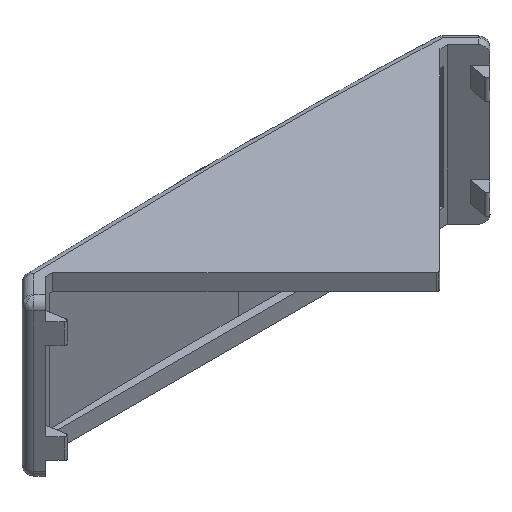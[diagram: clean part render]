
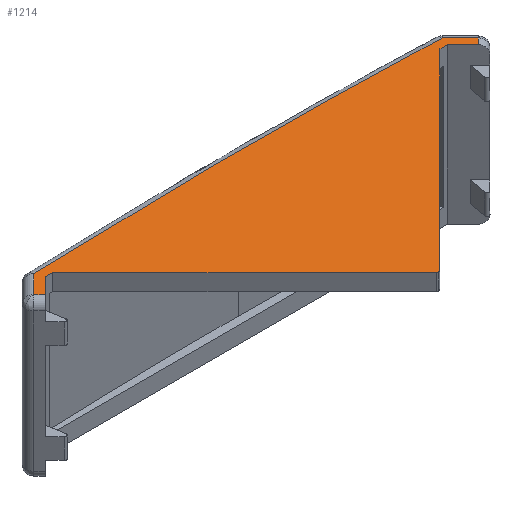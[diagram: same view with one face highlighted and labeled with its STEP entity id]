
A CAD part, isometric view. The second image highlights one B-rep face of the part: STEP entity #1214.
In plain terms, the highlighted planar face has unit normal (0, 0, 1).
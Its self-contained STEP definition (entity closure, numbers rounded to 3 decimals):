
#6 = CARTESIAN_POINT ( 'NONE',  ( -49.296, 2.033, 18.75 ) ) ;
#20 = CARTESIAN_POINT ( 'NONE',  ( 0.424, -46.326, 18.75 ) ) ;
#36 = ORIENTED_EDGE ( 'NONE', *, *, #570, .F. ) ;
#67 = VERTEX_POINT ( 'NONE', #1508 ) ;
#79 = CIRCLE ( 'NONE', #910, 0.6 ) ;
#100 = LINE ( 'NONE', #117, #2200 ) ;
#117 = CARTESIAN_POINT ( 'NONE',  ( 53.662, -2.333, 18.75 ) ) ;
#138 = VECTOR ( 'NONE', #1534, 1000. ) ;
#147 = CARTESIAN_POINT ( 'NONE',  ( -53.662, -2.333, 18.75 ) ) ;
#159 = DIRECTION ( 'NONE',  ( -1., 0., 0. ) ) ;
#177 = CARTESIAN_POINT ( 'NONE',  ( -48.5, 0., 18.75 ) ) ;
#267 = CARTESIAN_POINT ( 'NONE',  ( 48.5, 0., 18.75 ) ) ;
#269 = VECTOR ( 'NONE', #1024, 1000. ) ;
#286 = DIRECTION ( 'NONE',  ( 0., -1., 0. ) ) ;
#306 = VECTOR ( 'NONE', #159, 1000. ) ;
#347 = VECTOR ( 'NONE', #532, 1000. ) ;
#366 = ORIENTED_EDGE ( 'NONE', *, *, #658, .F. ) ;
#371 = CARTESIAN_POINT ( 'NONE',  ( -51.081, -2.581, 18.75 ) ) ;
#375 = EDGE_CURVE ( 'NONE', #446, #1675, #784, .T. ) ;
#396 = ORIENTED_EDGE ( 'NONE', *, *, #1366, .F. ) ;
#408 = DIRECTION ( 'NONE',  ( 0.707, 0.707, 0. ) ) ;
#416 = VERTEX_POINT ( 'NONE', #2049 ) ;
#420 = DIRECTION ( 'NONE',  ( 0., 0., -1. ) ) ;
#445 = EDGE_CURVE ( 'NONE', #1464, #955, #1599, .T. ) ;
#446 = VERTEX_POINT ( 'NONE', #799 ) ;
#484 = ORIENTED_EDGE ( 'NONE', *, *, #2228, .T. ) ;
#496 = LINE ( 'NONE', #1562, #1419 ) ;
#501 = CARTESIAN_POINT ( 'NONE',  ( 49.296, 2.033, 18.75 ) ) ;
#509 = CARTESIAN_POINT ( 'NONE',  ( -16.44, 3.323, 18.75 ) ) ;
#532 = DIRECTION ( 'NONE',  ( -0.707, -0.707, 0. ) ) ;
#566 = ORIENTED_EDGE ( 'NONE', *, *, #1425, .F. ) ;
#570 = EDGE_CURVE ( 'NONE', #913, #817, #1399, .T. ) ;
#572 = CARTESIAN_POINT ( 'NONE',  ( -46.75, 0., 18.75 ) ) ;
#580 = EDGE_CURVE ( 'NONE', #817, #67, #781, .T. ) ;
#602 = DIRECTION ( 'NONE',  ( -1., 0., 0. ) ) ;
#658 = EDGE_CURVE ( 'NONE', #1675, #1730, #1960, .T. ) ;
#660 = DIRECTION ( 'NONE',  ( -0.707, 0.707, 0. ) ) ;
#661 = DIRECTION ( 'NONE',  ( -0.707, -0.707, 0. ) ) ;
#699 = CARTESIAN_POINT ( 'NONE',  ( 0., 0., 18.75 ) ) ;
#781 = LINE ( 'NONE', #1015, #306 ) ;
#784 = LINE ( 'NONE', #944, #1703 ) ;
#786 = VERTEX_POINT ( 'NONE', #808 ) ;
#799 = CARTESIAN_POINT ( 'NONE',  ( -0.424, -46.326, 18.75 ) ) ;
#808 = CARTESIAN_POINT ( 'NONE',  ( 0., -46.501, 18.75 ) ) ;
#817 = VERTEX_POINT ( 'NONE', #267 ) ;
#910 = AXIS2_PLACEMENT_3D ( 'NONE', #1894, #1381, #2254 ) ;
#913 = VERTEX_POINT ( 'NONE', #2115 ) ;
#944 = CARTESIAN_POINT ( 'NONE',  ( -46.75, 0., 18.75 ) ) ;
#951 = VECTOR ( 'NONE', #660, 1000. ) ;
#955 = VERTEX_POINT ( 'NONE', #1251 ) ;
#956 = CARTESIAN_POINT ( 'NONE',  ( 0., -45.901, 18.75 ) ) ;
#968 = ORIENTED_EDGE ( 'NONE', *, *, #2134, .T. ) ;
#976 = CARTESIAN_POINT ( 'NONE',  ( -52.955, -3.041, 18.75 ) ) ;
#984 = ORIENTED_EDGE ( 'NONE', *, *, #1776, .T. ) ;
#1015 = CARTESIAN_POINT ( 'NONE',  ( 0., 0., 18.75 ) ) ;
#1024 = DIRECTION ( 'NONE',  ( -0.707, -0.707, 0. ) ) ;
#1048 = FACE_OUTER_BOUND ( 'NONE', #1379, .T. ) ;
#1097 = VECTOR ( 'NONE', #1948, 1000. ) ;
#1140 = ORIENTED_EDGE ( 'NONE', *, *, #375, .F. ) ;
#1148 = VERTEX_POINT ( 'NONE', #2002 ) ;
#1159 = LINE ( 'NONE', #20, #347 ) ;
#1164 = CIRCLE ( 'NONE', #1315, 0.6 ) ;
#1214 = ADVANCED_FACE ( 'NONE', ( #1048 ), #2033, .F. ) ;
#1251 = CARTESIAN_POINT ( 'NONE',  ( -52.248, -3.748, 18.75 ) ) ;
#1315 = AXIS2_PLACEMENT_3D ( 'NONE', #956, #2070, #286 ) ;
#1364 = DIRECTION ( 'NONE',  ( 0.707, -0.707, 0. ) ) ;
#1366 = EDGE_CURVE ( 'NONE', #1875, #1148, #100, .T. ) ;
#1379 = EDGE_LOOP ( 'NONE', ( #484, #968, #2114, #1526, #36, #2053, #396, #566, #1545, #2139, #984, #366, #1140 ) ) ;
#1381 = DIRECTION ( 'NONE',  ( 0., 0., 1. ) ) ;
#1387 = CARTESIAN_POINT ( 'NONE',  ( -51.479, -0.15, 18.75 ) ) ;
#1399 = LINE ( 'NONE', #1722, #951 ) ;
#1419 = VECTOR ( 'NONE', #661, 1000. ) ;
#1425 = EDGE_CURVE ( 'NONE', #1506, #1875, #2045, .T. ) ;
#1464 = VERTEX_POINT ( 'NONE', #147 ) ;
#1494 = LINE ( 'NONE', #371, #2168 ) ;
#1506 = VERTEX_POINT ( 'NONE', #6 ) ;
#1508 = CARTESIAN_POINT ( 'NONE',  ( 46.75, 0., 18.75 ) ) ;
#1526 = ORIENTED_EDGE ( 'NONE', *, *, #580, .F. ) ;
#1534 = DIRECTION ( 'NONE',  ( 0.707, -0.707, 0. ) ) ;
#1545 = ORIENTED_EDGE ( 'NONE', *, *, #1959, .T. ) ;
#1562 = CARTESIAN_POINT ( 'NONE',  ( 52.248, -3.748, 18.75 ) ) ;
#1571 = CARTESIAN_POINT ( 'NONE',  ( 16.44, 3.323, 18.75 ) ) ;
#1576 = EDGE_CURVE ( 'NONE', #67, #416, #1159, .T. ) ;
#1599 = LINE ( 'NONE', #976, #138 ) ;
#1672 = CARTESIAN_POINT ( 'NONE',  ( 54.306, -46.798, 18.75 ) ) ;
#1675 = VERTEX_POINT ( 'NONE', #572 ) ;
#1703 = VECTOR ( 'NONE', #1818, 1000. ) ;
#1722 = CARTESIAN_POINT ( 'NONE',  ( 53.662, -5.162, 18.75 ) ) ;
#1730 = VERTEX_POINT ( 'NONE', #177 ) ;
#1776 = EDGE_CURVE ( 'NONE', #955, #1730, #1494, .T. ) ;
#1806 = AXIS2_PLACEMENT_3D ( 'NONE', #1672, #420, #602 ) ;
#1818 = DIRECTION ( 'NONE',  ( -0.707, 0.707, 0. ) ) ;
#1875 = VERTEX_POINT ( 'NONE', #2097 ) ;
#1894 = CARTESIAN_POINT ( 'NONE',  ( 0., -45.901, 18.75 ) ) ;
#1918 = CARTESIAN_POINT ( 'NONE',  ( -49.296, 2.033, 18.75 ) ) ;
#1948 = DIRECTION ( 'NONE',  ( -1., 0., 0. ) ) ;
#1959 = EDGE_CURVE ( 'NONE', #1506, #1464, #2039, .T. ) ;
#1960 = LINE ( 'NONE', #699, #1097 ) ;
#2002 = CARTESIAN_POINT ( 'NONE',  ( 53.662, -2.333, 18.75 ) ) ;
#2033 = PLANE ( 'NONE',  #1806 ) ;
#2039 = LINE ( 'NONE', #1387, #269 ) ;
#2045 =( BOUNDED_CURVE ( )  B_SPLINE_CURVE ( 3, ( #1918, #509, #1571, #501 ),
 .UNSPECIFIED., .F., .F. ) 
 B_SPLINE_CURVE_WITH_KNOTS ( ( 4, 4 ),
 ( 0., 1. ),
 .UNSPECIFIED. ) 
 CURVE ( )  GEOMETRIC_REPRESENTATION_ITEM ( )  RATIONAL_B_SPLINE_CURVE ( ( 0.957, 0.956, 0.956, 0.957 ) ) 
 REPRESENTATION_ITEM ( '' )  );
#2049 = CARTESIAN_POINT ( 'NONE',  ( 0.424, -46.326, 18.75 ) ) ;
#2053 = ORIENTED_EDGE ( 'NONE', *, *, #2215, .F. ) ;
#2070 = DIRECTION ( 'NONE',  ( 0., 0., 1. ) ) ;
#2097 = CARTESIAN_POINT ( 'NONE',  ( 49.296, 2.033, 18.75 ) ) ;
#2114 = ORIENTED_EDGE ( 'NONE', *, *, #1576, .F. ) ;
#2115 = CARTESIAN_POINT ( 'NONE',  ( 52.248, -3.748, 18.75 ) ) ;
#2134 = EDGE_CURVE ( 'NONE', #786, #416, #1164, .T. ) ;
#2139 = ORIENTED_EDGE ( 'NONE', *, *, #445, .T. ) ;
#2168 = VECTOR ( 'NONE', #408, 1000. ) ;
#2200 = VECTOR ( 'NONE', #1364, 1000. ) ;
#2215 = EDGE_CURVE ( 'NONE', #1148, #913, #496, .T. ) ;
#2228 = EDGE_CURVE ( 'NONE', #446, #786, #79, .T. ) ;
#2254 = DIRECTION ( 'NONE',  ( 0., -1., 0. ) ) ;
